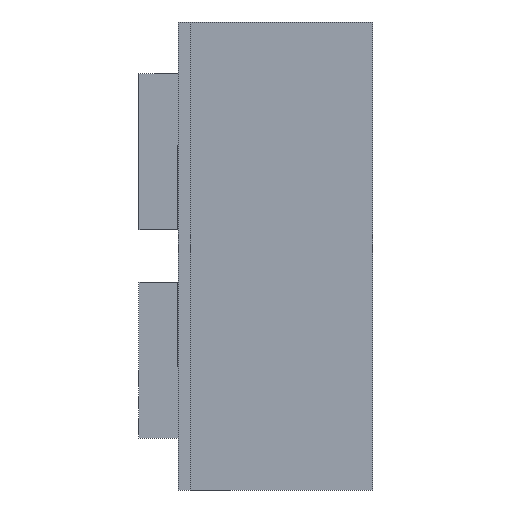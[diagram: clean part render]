
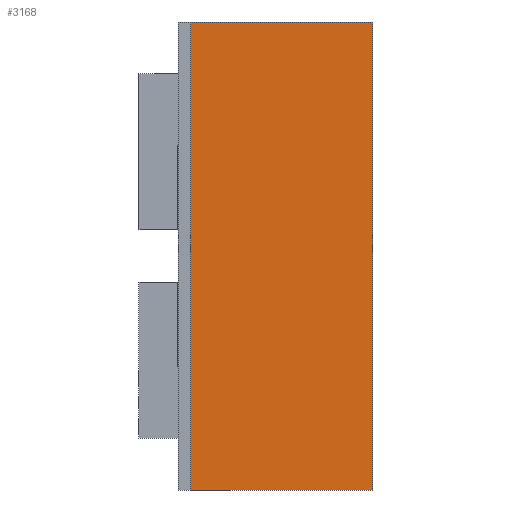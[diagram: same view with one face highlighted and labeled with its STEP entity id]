
A CAD part, left-side view. The second image highlights one B-rep face of the part: STEP entity #3168.
In plain terms, the highlighted planar face has unit normal (-1, 0, 0).
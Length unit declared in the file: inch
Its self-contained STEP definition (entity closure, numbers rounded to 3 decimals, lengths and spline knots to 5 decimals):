
#260 = PLANE ( 'NONE',  #3607 ) ;
#322 = EDGE_CURVE ( 'NONE', #5709, #4155, #2128, .T. ) ;
#427 = ORIENTED_EDGE ( 'NONE', *, *, #3688, .T. ) ;
#487 = ORIENTED_EDGE ( 'NONE', *, *, #2131, .T. ) ;
#493 = ORIENTED_EDGE ( 'NONE', *, *, #322, .F. ) ;
#506 = ORIENTED_EDGE ( 'NONE', *, *, #1840, .F. ) ;
#646 = CARTESIAN_POINT ( 'NONE',  ( 0., 0., 0. ) ) ;
#761 = DIRECTION ( 'NONE',  ( -1., 0., 0. ) ) ;
#1304 = VECTOR ( 'NONE', #2883, 39.37008 ) ;
#1356 = DIRECTION ( 'NONE',  ( 0., 0., 1. ) ) ;
#1595 = LINE ( 'NONE', #2835, #2495 ) ;
#1698 = CARTESIAN_POINT ( 'NONE',  ( 0., 3.5, -9. ) ) ;
#1840 = EDGE_CURVE ( 'NONE', #4155, #4279, #1595, .T. ) ;
#1987 = VECTOR ( 'NONE', #1356, 39.37008 ) ;
#2026 = VERTEX_POINT ( 'NONE', #3451 ) ;
#2128 = LINE ( 'NONE', #1698, #1987 ) ;
#2131 = EDGE_CURVE ( 'NONE', #5709, #2026, #2279, .T. ) ;
#2279 = LINE ( 'NONE', #3990, #5828 ) ;
#2304 = CARTESIAN_POINT ( 'NONE',  ( 0., 3.5, 0. ) ) ;
#2475 = LINE ( 'NONE', #5225, #1304 ) ;
#2495 = VECTOR ( 'NONE', #2799, 39.37008 ) ;
#2799 = DIRECTION ( 'NONE',  ( 0., -1., 0. ) ) ;
#2835 = CARTESIAN_POINT ( 'NONE',  ( 0., 0., 0. ) ) ;
#2883 = DIRECTION ( 'NONE',  ( 0., 0., 1. ) ) ;
#3168 = ADVANCED_FACE ( 'NONE', ( #4173 ), #260, .T. ) ;
#3451 = CARTESIAN_POINT ( 'NONE',  ( 0., 0., -9. ) ) ;
#3458 = CARTESIAN_POINT ( 'NONE',  ( 0., 0., -9. ) ) ;
#3607 = AXIS2_PLACEMENT_3D ( 'NONE', #3458, #761, #3923 ) ;
#3688 = EDGE_CURVE ( 'NONE', #2026, #4279, #2475, .T. ) ;
#3923 = DIRECTION ( 'NONE',  ( 0., 0., 1. ) ) ;
#3941 = DIRECTION ( 'NONE',  ( 0., -1., 0. ) ) ;
#3951 = CARTESIAN_POINT ( 'NONE',  ( 0., 3.5, -9. ) ) ;
#3990 = CARTESIAN_POINT ( 'NONE',  ( 0., 0., -9. ) ) ;
#4155 = VERTEX_POINT ( 'NONE', #2304 ) ;
#4173 = FACE_OUTER_BOUND ( 'NONE', #4346, .T. ) ;
#4279 = VERTEX_POINT ( 'NONE', #646 ) ;
#4346 = EDGE_LOOP ( 'NONE', ( #506, #493, #487, #427 ) ) ;
#5225 = CARTESIAN_POINT ( 'NONE',  ( 0., 0., -9. ) ) ;
#5709 = VERTEX_POINT ( 'NONE', #3951 ) ;
#5828 = VECTOR ( 'NONE', #3941, 39.37008 ) ;
